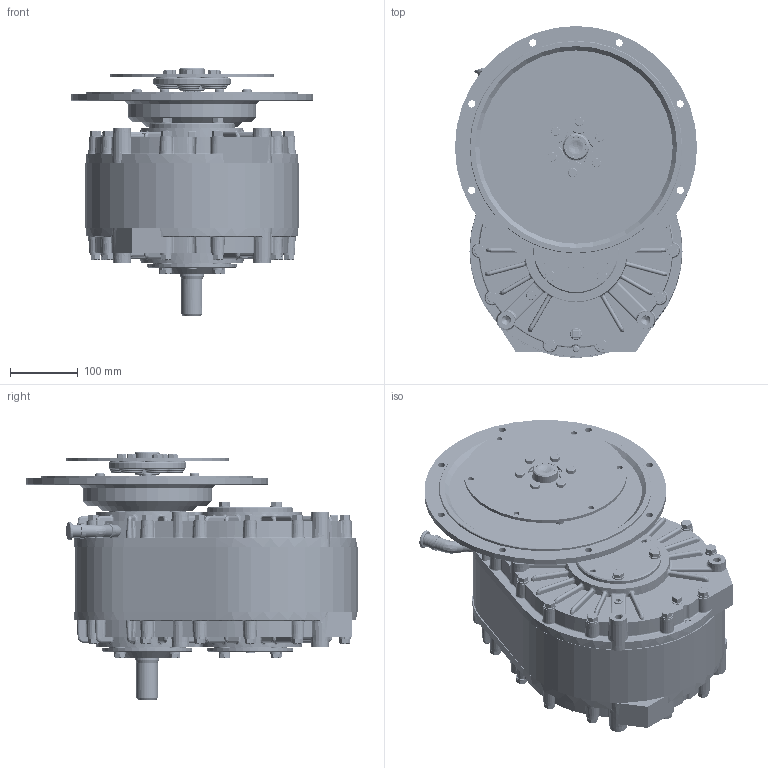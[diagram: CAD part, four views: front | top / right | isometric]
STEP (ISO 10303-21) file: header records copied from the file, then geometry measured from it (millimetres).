
FILE_DESCRIPTION (( 'STEP AP214' ), '1' );
FILE_NAME ('D201E197001.STEP', '2022-03-11T14:40:20', ( '' ), ( '' ), 'SwSTEP 2.0', 'SolidWorks 2021', '' );
FILE_SCHEMA (( 'AUTOMOTIVE_DESIGN' ));
Length unit declared in the file: inch
Products named in the file (37): DWL.38X1.25_DPM .38x1.50; D101001W; D201109_GearTrax; 123207_123207-01; PN.38NPTX1.50; LWZ.38_Regular LW 0.38; SH K-_SH K-21405; SHCS .38-16x1.25_HX-SHCS .38-16x1.00; PPSKG.25-18; SH K-_SH K-21407; SH K-_SH K-21520; D201111; D201E197001; H52500_INSTALLED PART; SH K-_SH K-21507; greaseplug_HP-1125-S-32; D201116_GearTrax; STEL.38NPT45; HX100_HX100; OS1.375X2.000-2; D17-5-RBD; SH K-_SH K-21420; OS 1.125X1.624-2; HHCSZ.38-16X.88_HHCSZ.38-16X.75; 132947; 123243_123243-05; PPSQM .38-18; D201110; D201118; D201113; D201002G; 123729-01; SH K-_SH K-21505; AV313650; HHCSZ.38-16x2.25_HHCSZ.3750-16x1.625; D201104; D101001Z
Assembly tree (141 placements, depth 3):
  D201E197001
    D101001Z
    D201104
    D201110
    DWL.38X1.25_DPM .38x1.50  x4
    D101001W
    D201118
    OS1.375X2.000-2
    OS 1.125X1.624-2
    LWZ.38_Regular LW 0.38  x36
    HHCSZ.38-16X.88_HHCSZ.38-16X.75  x12
    PN.38NPTX1.50
    STEL.38NPT45
    AV313650
    PPSQM .38-18
    D201002G
    D201109_GearTrax
    132947
      123243_123243-05
      123207_123207-01
      H52500_INSTALLED PART  x6
      HX100_HX100  x6
      123729-01  x6
      greaseplug_HP-1125-S-32
      D17-5-RBD
    D201111
    D201113
    PPSKG.25-18  x4
    D201116_GearTrax
    SH K-_SH K-21505  x2
    SH K-_SH K-21507  x4
    SH K-_SH K-21520  x2
    SH K-_SH K-21420
    SH K-_SH K-21407  x2
    SH K-_SH K-21405
    SHCS .38-16x1.25_HX-SHCS .38-16x1.00  x10
    HHCSZ.38-16x2.25_HHCSZ.3750-16x1.625  x24
Bounding box: 358 x 490.5 x 365.97 mm (x, y, z)
Volume: 9526621 mm3; surface area: 1827688.2 mm2
Topology: 141 solids, 142 shells, 4819 faces, 11622 edges, 6994 vertices
Faces by surface type: cylinder 1388, plane 1323, cone 1267, bspline 693, torus 148
Entity records: 141018 total; most frequent: CARTESIAN_POINT 66489, ORIENTED_EDGE 14502, DIRECTION 13557, EDGE_CURVE 7251, AXIS2_PLACEMENT_3D 5612, VERTEX_POINT 4483, EDGE_LOOP 3352, CIRCLE 3166
